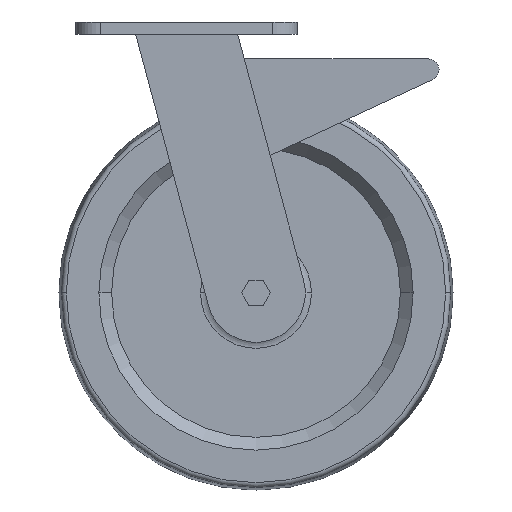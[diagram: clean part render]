
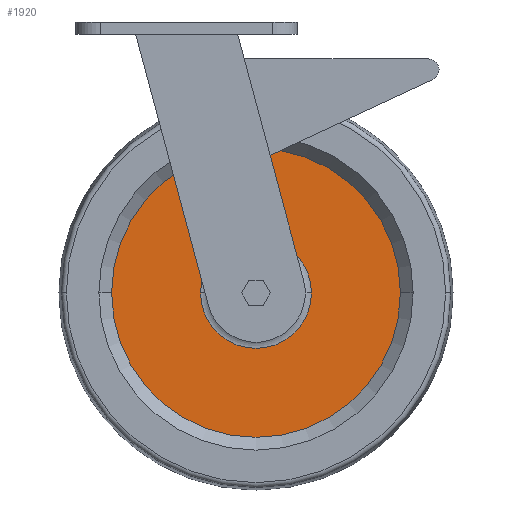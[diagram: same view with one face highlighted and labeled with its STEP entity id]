
A CAD part, front view. The second image highlights one B-rep face of the part: STEP entity #1920.
In plain terms, the highlighted planar face has unit normal (0, -1, 0).
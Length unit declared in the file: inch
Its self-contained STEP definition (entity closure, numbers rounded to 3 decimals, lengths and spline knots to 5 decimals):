
#5 = DIRECTION ( 'NONE',  ( 0., 1., 0. ) ) ;
#6 = FACE_OUTER_BOUND ( 'NONE', #2860, .T. ) ;
#14 = CIRCLE ( 'NONE', #121, 2.93112 ) ;
#43 = CARTESIAN_POINT ( 'NONE',  ( 0., -0.375, 0. ) ) ;
#57 = DIRECTION ( 'NONE',  ( -1., 0., 0. ) ) ;
#98 = ORIENTED_EDGE ( 'NONE', *, *, #817, .F. ) ;
#121 = AXIS2_PLACEMENT_3D ( 'NONE', #43, #1518, #57 ) ;
#199 = CARTESIAN_POINT ( 'NONE',  ( 0., -0.375, 0. ) ) ;
#200 = DIRECTION ( 'NONE',  ( -1., 0., 0. ) ) ;
#291 = CIRCLE ( 'NONE', #2737, 1.125 ) ;
#320 = CARTESIAN_POINT ( 'NONE',  ( 2.93112, -0.375, 0. ) ) ;
#336 = CIRCLE ( 'NONE', #3212, 2.93112 ) ;
#384 = AXIS2_PLACEMENT_3D ( 'NONE', #199, #3227, #2739 ) ;
#523 = ORIENTED_EDGE ( 'NONE', *, *, #2044, .T. ) ;
#618 = EDGE_CURVE ( 'NONE', #2760, #1986, #2511, .T. ) ;
#778 = EDGE_CURVE ( 'NONE', #1314, #1368, #336, .T. ) ;
#780 = CARTESIAN_POINT ( 'NONE',  ( -2.93112, -0.375, 0. ) ) ;
#817 = EDGE_CURVE ( 'NONE', #1368, #1314, #14, .T. ) ;
#1000 = PLANE ( 'NONE',  #1838 ) ;
#1065 = DIRECTION ( 'NONE',  ( 0., 1., 0. ) ) ;
#1226 = ORIENTED_EDGE ( 'NONE', *, *, #778, .F. ) ;
#1314 = VERTEX_POINT ( 'NONE', #780 ) ;
#1329 = CARTESIAN_POINT ( 'NONE',  ( 0., -0.375, 0. ) ) ;
#1368 = VERTEX_POINT ( 'NONE', #320 ) ;
#1378 = EDGE_LOOP ( 'NONE', ( #523, #2081 ) ) ;
#1518 = DIRECTION ( 'NONE',  ( 0., 1., 0. ) ) ;
#1583 = DIRECTION ( 'NONE',  ( -1., 0., 0. ) ) ;
#1838 = AXIS2_PLACEMENT_3D ( 'NONE', #3044, #3010, #200 ) ;
#1842 = CARTESIAN_POINT ( 'NONE',  ( 0., -0.375, 0. ) ) ;
#1894 = DIRECTION ( 'NONE',  ( -1., 0., 0. ) ) ;
#1920 = ADVANCED_FACE ( 'NONE', ( #6, #2057 ), #1000, .F. ) ;
#1986 = VERTEX_POINT ( 'NONE', #2252 ) ;
#2044 = EDGE_CURVE ( 'NONE', #1986, #2760, #291, .T. ) ;
#2057 = FACE_BOUND ( 'NONE', #1378, .T. ) ;
#2081 = ORIENTED_EDGE ( 'NONE', *, *, #618, .T. ) ;
#2163 = CARTESIAN_POINT ( 'NONE',  ( 1.125, -0.375, 0. ) ) ;
#2252 = CARTESIAN_POINT ( 'NONE',  ( -1.125, -0.375, 0. ) ) ;
#2511 = CIRCLE ( 'NONE', #384, 1.125 ) ;
#2737 = AXIS2_PLACEMENT_3D ( 'NONE', #1329, #1065, #1894 ) ;
#2739 = DIRECTION ( 'NONE',  ( -1., 0., 0. ) ) ;
#2760 = VERTEX_POINT ( 'NONE', #2163 ) ;
#2860 = EDGE_LOOP ( 'NONE', ( #98, #1226 ) ) ;
#3010 = DIRECTION ( 'NONE',  ( 0., 1., 0. ) ) ;
#3044 = CARTESIAN_POINT ( 'NONE',  ( 1.125, -0.375, 0. ) ) ;
#3212 = AXIS2_PLACEMENT_3D ( 'NONE', #1842, #5, #1583 ) ;
#3227 = DIRECTION ( 'NONE',  ( 0., 1., 0. ) ) ;
